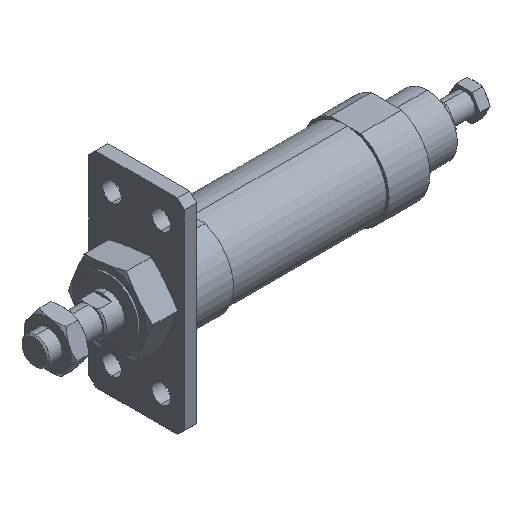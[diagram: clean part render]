
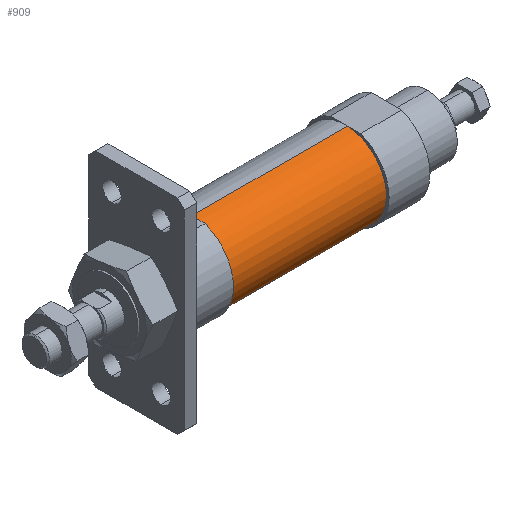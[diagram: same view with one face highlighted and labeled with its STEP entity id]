
A CAD part, isometric view. The second image highlights one B-rep face of the part: STEP entity #909.
In plain terms, the highlighted cylindrical face has radius 15 mm (diameter 30 mm), a partial arc.
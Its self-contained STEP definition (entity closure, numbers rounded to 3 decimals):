
#27 = DIRECTION ( 'NONE',  ( 1., 0., 0. ) ) ;
#108 = CIRCLE ( 'NONE', #4639, 15. ) ;
#134 = DIRECTION ( 'NONE',  ( 0., 0., -1. ) ) ;
#157 = CARTESIAN_POINT ( 'NONE',  ( 28.5, 0., 15. ) ) ;
#308 = CARTESIAN_POINT ( 'NONE',  ( -28.5, 0., 15. ) ) ;
#411 = DIRECTION ( 'NONE',  ( 0., 0., 1. ) ) ;
#586 = CARTESIAN_POINT ( 'NONE',  ( 28.5, 0., 0. ) ) ;
#618 = LINE ( 'NONE', #1231, #4766 ) ;
#881 = CARTESIAN_POINT ( 'NONE',  ( 28.5, 0., -15. ) ) ;
#909 = ADVANCED_FACE ( 'NONE', ( #1092 ), #5152, .T. ) ;
#1077 = CARTESIAN_POINT ( 'NONE',  ( -28.5, 0., 0. ) ) ;
#1092 = FACE_OUTER_BOUND ( 'NONE', #1397, .T. ) ;
#1138 = DIRECTION ( 'NONE',  ( -1., 0., 0. ) ) ;
#1174 = AXIS2_PLACEMENT_3D ( 'NONE', #586, #2045, #411 ) ;
#1185 = EDGE_CURVE ( 'NONE', #3506, #1842, #1721, .T. ) ;
#1231 = CARTESIAN_POINT ( 'NONE',  ( 28.5, 0., 15. ) ) ;
#1254 = ORIENTED_EDGE ( 'NONE', *, *, #4578, .F. ) ;
#1285 = EDGE_CURVE ( 'NONE', #1300, #1842, #108, .T. ) ;
#1300 = VERTEX_POINT ( 'NONE', #308 ) ;
#1397 = EDGE_LOOP ( 'NONE', ( #3818, #1254, #1427, #5201 ) ) ;
#1427 = ORIENTED_EDGE ( 'NONE', *, *, #3541, .T. ) ;
#1562 = CIRCLE ( 'NONE', #4917, 15. ) ;
#1645 = CARTESIAN_POINT ( 'NONE',  ( 28.5, 0., 0. ) ) ;
#1721 = LINE ( 'NONE', #881, #3082 ) ;
#1842 = VERTEX_POINT ( 'NONE', #2307 ) ;
#2045 = DIRECTION ( 'NONE',  ( -1., 0., 0. ) ) ;
#2307 = CARTESIAN_POINT ( 'NONE',  ( -28.5, 0., -15. ) ) ;
#3019 = DIRECTION ( 'NONE',  ( 0., 0., -1. ) ) ;
#3040 = VERTEX_POINT ( 'NONE', #157 ) ;
#3082 = VECTOR ( 'NONE', #1138, 1000. ) ;
#3506 = VERTEX_POINT ( 'NONE', #3658 ) ;
#3541 = EDGE_CURVE ( 'NONE', #3040, #1300, #618, .T. ) ;
#3658 = CARTESIAN_POINT ( 'NONE',  ( 28.5, 0., -15. ) ) ;
#3818 = ORIENTED_EDGE ( 'NONE', *, *, #1185, .F. ) ;
#4578 = EDGE_CURVE ( 'NONE', #3040, #3506, #1562, .T. ) ;
#4639 = AXIS2_PLACEMENT_3D ( 'NONE', #1077, #5215, #134 ) ;
#4766 = VECTOR ( 'NONE', #4925, 1000. ) ;
#4917 = AXIS2_PLACEMENT_3D ( 'NONE', #1645, #27, #3019 ) ;
#4925 = DIRECTION ( 'NONE',  ( -1., 0., 0. ) ) ;
#5152 = CYLINDRICAL_SURFACE ( 'NONE', #1174, 15. ) ;
#5201 = ORIENTED_EDGE ( 'NONE', *, *, #1285, .T. ) ;
#5215 = DIRECTION ( 'NONE',  ( 1., 0., 0. ) ) ;
